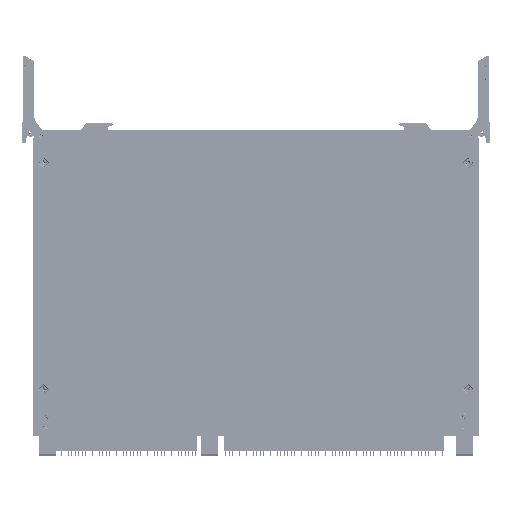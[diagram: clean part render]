
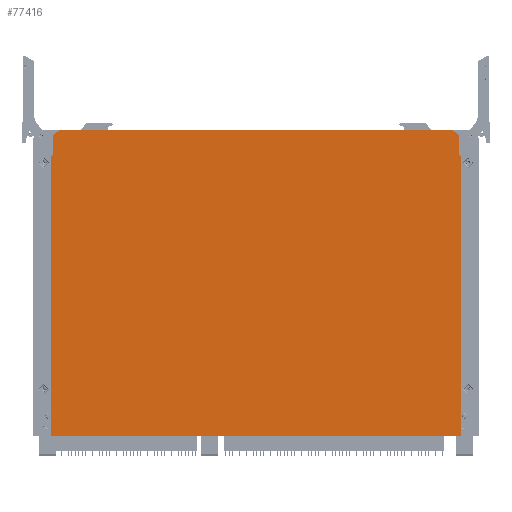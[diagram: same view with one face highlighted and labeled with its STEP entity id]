
A CAD part, left-side view. The second image highlights one B-rep face of the part: STEP entity #77416.
In plain terms, the highlighted planar face has unit normal (-1, 0, 0) as drawn and (0, 1, 0) by its records, which use the part's own axes.
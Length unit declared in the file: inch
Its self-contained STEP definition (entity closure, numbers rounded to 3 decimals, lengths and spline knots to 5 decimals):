
#476 = AXIS2_PLACEMENT_3D ( 'NONE', #219776, #92065, #241156 ) ;
#2204 = CARTESIAN_POINT ( 'NONE',  ( 4.1935, 0.11, 5.79621 ) ) ;
#2260 = DIRECTION ( 'NONE',  ( 0., 0., -1. ) ) ;
#5013 = EDGE_LOOP ( 'NONE', ( #181773, #216451, #106714, #245224, #152643, #181095, #189916, #236900, #257793, #269652, #29167, #54903, #229067, #101109 ) ) ;
#5346 = CARTESIAN_POINT ( 'NONE',  ( -4.1935, 0.11, 6.15998 ) ) ;
#6902 = VERTEX_POINT ( 'NONE', #62258 ) ;
#9904 = CARTESIAN_POINT ( 'NONE',  ( -4.1935, 0.11, 5.79621 ) ) ;
#12043 = VERTEX_POINT ( 'NONE', #5346 ) ;
#18226 = VERTEX_POINT ( 'NONE', #132252 ) ;
#19250 = CARTESIAN_POINT ( 'NONE',  ( 4.1335, 0.11, 6.15998 ) ) ;
#21904 = CARTESIAN_POINT ( 'NONE',  ( 4.05476, 0.11, 6.28836 ) ) ;
#22917 = CARTESIAN_POINT ( 'NONE',  ( -4.221, 0.11, 6.29921 ) ) ;
#24031 = DIRECTION ( 'NONE',  ( -1., 0., 0. ) ) ;
#28375 = EDGE_CURVE ( 'NONE', #102425, #203364, #142906, .T. ) ;
#29167 = ORIENTED_EDGE ( 'NONE', *, *, #118213, .F. ) ;
#32097 = VERTEX_POINT ( 'NONE', #37857 ) ;
#35920 = AXIS2_PLACEMENT_3D ( 'NONE', #42711, #192044, #64080 ) ;
#37857 = CARTESIAN_POINT ( 'NONE',  ( 4.16791, 0.11, 6.20913 ) ) ;
#38014 = CARTESIAN_POINT ( 'NONE',  ( -4.221, 0.11, 6.29921 ) ) ;
#39455 = EDGE_CURVE ( 'NONE', #191417, #90460, #197038, .T. ) ;
#40661 = AXIS2_PLACEMENT_3D ( 'NONE', #202847, #75069, #224394 ) ;
#40744 = DIRECTION ( 'NONE',  ( 0., 0., 1. ) ) ;
#42111 = CARTESIAN_POINT ( 'NONE',  ( 4.16791, 0.11, 6.20913 ) ) ;
#42711 = CARTESIAN_POINT ( 'NONE',  ( 4.02034, 0.11, 6.23921 ) ) ;
#44898 = DIRECTION ( 'NONE',  ( 0., 1., 0. ) ) ;
#50417 = LINE ( 'NONE', #151812, #51545 ) ;
#51545 = VECTOR ( 'NONE', #24031, 39.37008 ) ;
#53049 = CIRCLE ( 'NONE', #40661, 0.06 ) ;
#54903 = ORIENTED_EDGE ( 'NONE', *, *, #63865, .F. ) ;
#62258 = CARTESIAN_POINT ( 'NONE',  ( 4.221, 0.11, 0. ) ) ;
#63865 = EDGE_CURVE ( 'NONE', #130984, #18226, #96439, .T. ) ;
#64080 = DIRECTION ( 'NONE',  ( 0., 0., -1. ) ) ;
#64209 = DIRECTION ( 'NONE',  ( 0., 1., 0. ) ) ;
#68498 = FACE_OUTER_BOUND ( 'NONE', #5013, .T. ) ;
#71926 = EDGE_CURVE ( 'NONE', #95291, #182147, #212877, .T. ) ;
#75069 = DIRECTION ( 'NONE',  ( 0., -1., 0. ) ) ;
#77416 = ADVANCED_FACE ( 'NONE', ( #68498 ), #108739, .F. ) ;
#79052 = VECTOR ( 'NONE', #106455, 39.37008 ) ;
#79310 = LINE ( 'NONE', #42111, #79052 ) ;
#86691 = CARTESIAN_POINT ( 'NONE',  ( 4.221, 0.11, 6.29921 ) ) ;
#87100 = VERTEX_POINT ( 'NONE', #107565 ) ;
#87431 = AXIS2_PLACEMENT_3D ( 'NONE', #192166, #64209, #213443 ) ;
#87777 = AXIS2_PLACEMENT_3D ( 'NONE', #172681, #44898, #194206 ) ;
#89074 = CARTESIAN_POINT ( 'NONE',  ( -4.05476, 0.11, 6.28836 ) ) ;
#90460 = VERTEX_POINT ( 'NONE', #21904 ) ;
#91401 = CARTESIAN_POINT ( 'NONE',  ( -4.221, 0.11, 6.29921 ) ) ;
#92065 = DIRECTION ( 'NONE',  ( 0., 1., 0. ) ) ;
#94898 = VECTOR ( 'NONE', #209621, 39.37008 ) ;
#95291 = VERTEX_POINT ( 'NONE', #89074 ) ;
#96439 = CIRCLE ( 'NONE', #87431, 0.03 ) ;
#101109 = ORIENTED_EDGE ( 'NONE', *, *, #264646, .F. ) ;
#102425 = VERTEX_POINT ( 'NONE', #2204 ) ;
#104297 = CIRCLE ( 'NONE', #476, 0.03 ) ;
#106455 = DIRECTION ( 'NONE',  ( -0.819, 0., 0.574 ) ) ;
#106714 = ORIENTED_EDGE ( 'NONE', *, *, #227790, .F. ) ;
#107351 = EDGE_CURVE ( 'NONE', #95291, #233677, #122163, .T. ) ;
#107565 = CARTESIAN_POINT ( 'NONE',  ( 4.221, 0.11, 5.76632 ) ) ;
#108739 = PLANE ( 'NONE',  #113120 ) ;
#113120 = AXIS2_PLACEMENT_3D ( 'NONE', #22917, #257962, #130190 ) ;
#114579 = LINE ( 'NONE', #38014, #94898 ) ;
#118213 = EDGE_CURVE ( 'NONE', #18226, #127493, #114579, .T. ) ;
#119988 = CARTESIAN_POINT ( 'NONE',  ( -4.221, 0.11, 0. ) ) ;
#122163 = CIRCLE ( 'NONE', #87777, 0.06 ) ;
#127493 = VERTEX_POINT ( 'NONE', #119988 ) ;
#130190 = DIRECTION ( 'NONE',  ( 0., 0., -1. ) ) ;
#130984 = VERTEX_POINT ( 'NONE', #9904 ) ;
#132252 = CARTESIAN_POINT ( 'NONE',  ( -4.221, 0.11, 5.76632 ) ) ;
#138301 = EDGE_CURVE ( 'NONE', #12043, #130984, #248737, .T. ) ;
#138623 = CARTESIAN_POINT ( 'NONE',  ( -4.16791, 0.11, 6.20913 ) ) ;
#141325 = VECTOR ( 'NONE', #159771, 39.37008 ) ;
#142906 = LINE ( 'NONE', #224179, #141325 ) ;
#143036 = CIRCLE ( 'NONE', #269907, 0.06 ) ;
#151598 = CARTESIAN_POINT ( 'NONE',  ( -4.1935, 0.11, 5.79621 ) ) ;
#151812 = CARTESIAN_POINT ( 'NONE',  ( -4.221, 0.11, 0. ) ) ;
#152643 = ORIENTED_EDGE ( 'NONE', *, *, #250045, .F. ) ;
#154888 = CARTESIAN_POINT ( 'NONE',  ( 4.1935, 0.11, 6.15998 ) ) ;
#158216 = DIRECTION ( 'NONE',  ( -0.819, 0., -0.574 ) ) ;
#159771 = DIRECTION ( 'NONE',  ( 0., 0., 1. ) ) ;
#162379 = VECTOR ( 'NONE', #235822, 39.37008 ) ;
#168537 = DIRECTION ( 'NONE',  ( 0., -1., 0. ) ) ;
#169117 = CARTESIAN_POINT ( 'NONE',  ( -4.16791, 0.11, 6.20913 ) ) ;
#172681 = CARTESIAN_POINT ( 'NONE',  ( -4.02034, 0.11, 6.23921 ) ) ;
#175727 = EDGE_CURVE ( 'NONE', #87100, #6902, #202705, .T. ) ;
#181095 = ORIENTED_EDGE ( 'NONE', *, *, #181544, .F. ) ;
#181544 = EDGE_CURVE ( 'NONE', #203364, #32097, #143036, .T. ) ;
#181773 = ORIENTED_EDGE ( 'NONE', *, *, #71926, .F. ) ;
#182014 = VECTOR ( 'NONE', #198593, 39.37008 ) ;
#182147 = VERTEX_POINT ( 'NONE', #169117 ) ;
#186237 = LINE ( 'NONE', #91401, #182014 ) ;
#189916 = ORIENTED_EDGE ( 'NONE', *, *, #28375, .F. ) ;
#191417 = VERTEX_POINT ( 'NONE', #201401 ) ;
#192044 = DIRECTION ( 'NONE',  ( 0., 1., 0. ) ) ;
#192166 = CARTESIAN_POINT ( 'NONE',  ( -4.2235, 0.11, 5.79621 ) ) ;
#194206 = DIRECTION ( 'NONE',  ( 0., 0., -1. ) ) ;
#197038 = CIRCLE ( 'NONE', #35920, 0.06 ) ;
#198322 = CARTESIAN_POINT ( 'NONE',  ( -4.02034, 0.11, 6.29921 ) ) ;
#198593 = DIRECTION ( 'NONE',  ( -1., 0., 0. ) ) ;
#201401 = CARTESIAN_POINT ( 'NONE',  ( 4.02034, 0.11, 6.29921 ) ) ;
#202705 = LINE ( 'NONE', #86691, #162379 ) ;
#202847 = CARTESIAN_POINT ( 'NONE',  ( -4.1335, 0.11, 6.15998 ) ) ;
#203364 = VERTEX_POINT ( 'NONE', #154888 ) ;
#209621 = DIRECTION ( 'NONE',  ( 0., 0., -1. ) ) ;
#211857 = VECTOR ( 'NONE', #158216, 39.37008 ) ;
#212877 = LINE ( 'NONE', #138623, #211857 ) ;
#213443 = DIRECTION ( 'NONE',  ( 0., 0., -1. ) ) ;
#216451 = ORIENTED_EDGE ( 'NONE', *, *, #107351, .T. ) ;
#219776 = CARTESIAN_POINT ( 'NONE',  ( 4.2235, 0.11, 5.79621 ) ) ;
#224179 = CARTESIAN_POINT ( 'NONE',  ( 4.1935, 0.11, 5.79621 ) ) ;
#224394 = DIRECTION ( 'NONE',  ( 0., 0., -1. ) ) ;
#227790 = EDGE_CURVE ( 'NONE', #191417, #233677, #186237, .T. ) ;
#229067 = ORIENTED_EDGE ( 'NONE', *, *, #138301, .F. ) ;
#233676 = EDGE_CURVE ( 'NONE', #87100, #102425, #104297, .T. ) ;
#233677 = VERTEX_POINT ( 'NONE', #198322 ) ;
#235822 = DIRECTION ( 'NONE',  ( 0., 0., -1. ) ) ;
#236900 = ORIENTED_EDGE ( 'NONE', *, *, #233676, .F. ) ;
#241156 = DIRECTION ( 'NONE',  ( 0., 0., 1. ) ) ;
#245224 = ORIENTED_EDGE ( 'NONE', *, *, #39455, .T. ) ;
#245510 = EDGE_CURVE ( 'NONE', #6902, #127493, #50417, .T. ) ;
#248737 = LINE ( 'NONE', #151598, #252277 ) ;
#250045 = EDGE_CURVE ( 'NONE', #32097, #90460, #79310, .T. ) ;
#252277 = VECTOR ( 'NONE', #2260, 39.37008 ) ;
#257793 = ORIENTED_EDGE ( 'NONE', *, *, #175727, .T. ) ;
#257962 = DIRECTION ( 'NONE',  ( 0., -1., 0. ) ) ;
#264646 = EDGE_CURVE ( 'NONE', #182147, #12043, #53049, .T. ) ;
#269652 = ORIENTED_EDGE ( 'NONE', *, *, #245510, .T. ) ;
#269907 = AXIS2_PLACEMENT_3D ( 'NONE', #19250, #168537, #40744 ) ;
